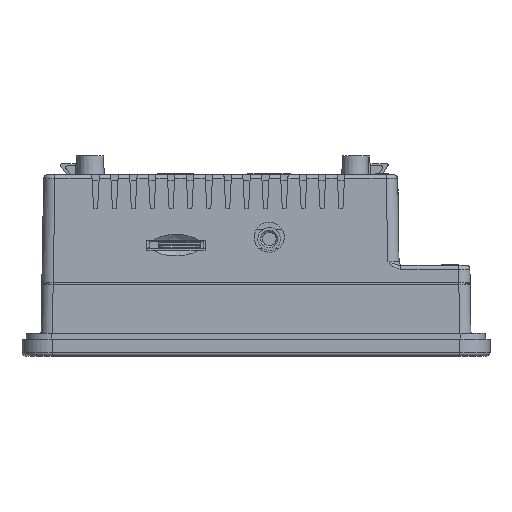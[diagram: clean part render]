
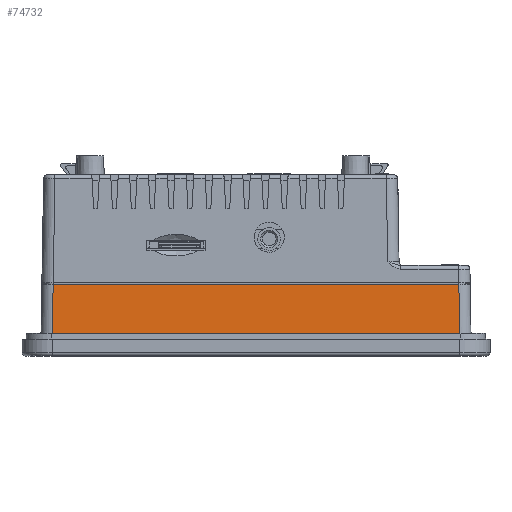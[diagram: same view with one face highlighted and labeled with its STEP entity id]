
A CAD part, left-side view. The second image highlights one B-rep face of the part: STEP entity #74732.
In plain terms, the highlighted planar face has unit normal (-1, 0, 0.018).
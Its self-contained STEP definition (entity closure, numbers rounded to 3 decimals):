
#6955 = DIRECTION ( 'NONE',  ( 0., -1., 0. ) ) ;
#12407 = CARTESIAN_POINT ( 'NONE',  ( -88.247, -53.747, -29. ) ) ;
#12478 = LINE ( 'NONE', #98037, #82781 ) ;
#22632 = EDGE_LOOP ( 'NONE', ( #90808, #122288, #70275, #117433 ) ) ;
#25077 = CARTESIAN_POINT ( 'NONE',  ( -88.5, 54., -43.5 ) ) ;
#30169 = DIRECTION ( 'NONE',  ( -0.017, 0.017, -1. ) ) ;
#32293 = VERTEX_POINT ( 'NONE', #25077 ) ;
#36093 = DIRECTION ( 'NONE',  ( 0., 1., 0. ) ) ;
#37062 = EDGE_CURVE ( 'NONE', #54300, #32293, #75735, .T. ) ;
#41685 = EDGE_CURVE ( 'NONE', #54300, #93789, #133271, .T. ) ;
#49053 = CARTESIAN_POINT ( 'NONE',  ( -88.247, 57., -29. ) ) ;
#54300 = VERTEX_POINT ( 'NONE', #80289 ) ;
#67666 = LINE ( 'NONE', #120314, #125937 ) ;
#69174 = DIRECTION ( 'NONE',  ( -1., 0., 0.017 ) ) ;
#70275 = ORIENTED_EDGE ( 'NONE', *, *, #41685, .F. ) ;
#74732 = ADVANCED_FACE ( 'NONE', ( #129581 ), #76258, .T. ) ;
#75735 = LINE ( 'NONE', #129061, #77117 ) ;
#76258 = PLANE ( 'NONE',  #122987 ) ;
#77117 = VECTOR ( 'NONE', #30169, 1000. ) ;
#80289 = CARTESIAN_POINT ( 'NONE',  ( -88.247, 53.747, -29. ) ) ;
#82781 = VECTOR ( 'NONE', #87496, 1000. ) ;
#86574 = CARTESIAN_POINT ( 'NONE',  ( -88.5, -54., -43.5 ) ) ;
#87496 = DIRECTION ( 'NONE',  ( 0.017, 0.017, 1. ) ) ;
#90808 = ORIENTED_EDGE ( 'NONE', *, *, #127572, .F. ) ;
#91594 = CARTESIAN_POINT ( 'NONE',  ( -88.5, 57., -43.5 ) ) ;
#93789 = VERTEX_POINT ( 'NONE', #12407 ) ;
#98037 = CARTESIAN_POINT ( 'NONE',  ( -88.466, -53.967, -41.564 ) ) ;
#101410 = DIRECTION ( 'NONE',  ( 0.017, 0., 1. ) ) ;
#113260 = VECTOR ( 'NONE', #6955, 1000. ) ;
#117433 = ORIENTED_EDGE ( 'NONE', *, *, #37062, .T. ) ;
#120314 = CARTESIAN_POINT ( 'NONE',  ( -88.5, 57., -43.5 ) ) ;
#121119 = EDGE_CURVE ( 'NONE', #132107, #93789, #12478, .T. ) ;
#122288 = ORIENTED_EDGE ( 'NONE', *, *, #121119, .T. ) ;
#122987 = AXIS2_PLACEMENT_3D ( 'NONE', #91594, #69174, #101410 ) ;
#125937 = VECTOR ( 'NONE', #36093, 1000. ) ;
#127572 = EDGE_CURVE ( 'NONE', #132107, #32293, #67666, .T. ) ;
#129061 = CARTESIAN_POINT ( 'NONE',  ( -88.501, 54.001, -43.552 ) ) ;
#129581 = FACE_OUTER_BOUND ( 'NONE', #22632, .T. ) ;
#132107 = VERTEX_POINT ( 'NONE', #86574 ) ;
#133271 = LINE ( 'NONE', #49053, #113260 ) ;
